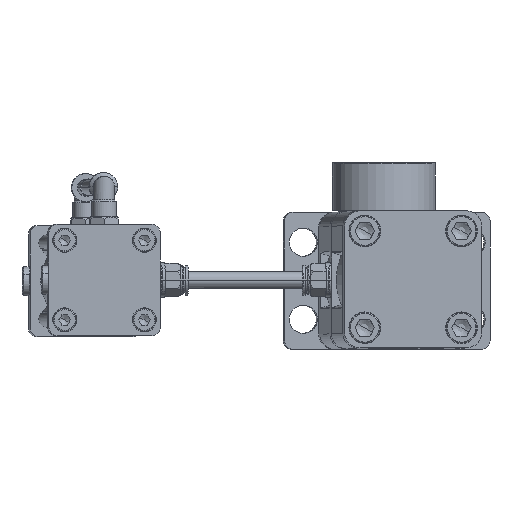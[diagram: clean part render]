
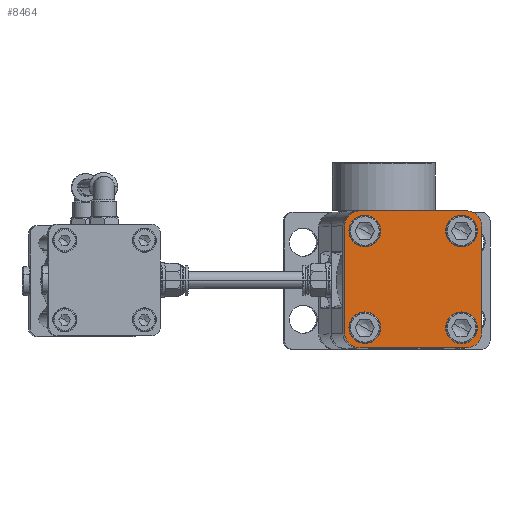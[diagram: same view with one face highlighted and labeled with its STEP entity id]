
A CAD part, top view. The second image highlights one B-rep face of the part: STEP entity #8464.
In plain terms, the highlighted planar face has unit normal (0.032, 0, 1) as drawn and (0, 0, 1) by its records, which use the part's own axes.
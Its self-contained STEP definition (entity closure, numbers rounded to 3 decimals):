
#8118=CARTESIAN_POINT('Axis2P3D Location',(-31.,31.,954.)) ;
#8122=CARTESIAN_POINT('Vertex',(-40.,31.,954.)) ;
#8124=CARTESIAN_POINT('Vertex',(-31.,40.,954.)) ;
#8164=CARTESIAN_POINT('Vertex',(31.,40.,954.)) ;
#8172=CARTESIAN_POINT('Line Origine',(0.,40.,954.)) ;
#8189=CARTESIAN_POINT('Axis2P3D Location',(31.,31.,954.)) ;
#8193=CARTESIAN_POINT('Vertex',(40.,31.,954.)) ;
#8226=CARTESIAN_POINT('Vertex',(40.,-31.,954.)) ;
#8234=CARTESIAN_POINT('Line Origine',(40.,0.,954.)) ;
#8251=CARTESIAN_POINT('Axis2P3D Location',(31.,-31.,954.)) ;
#8255=CARTESIAN_POINT('Vertex',(31.,-40.,954.)) ;
#8288=CARTESIAN_POINT('Vertex',(-40.,-31.,954.)) ;
#8291=CARTESIAN_POINT('Line Origine',(-40.,0.,954.)) ;
#8319=CARTESIAN_POINT('Vertex',(-31.,-40.,954.)) ;
#8327=CARTESIAN_POINT('Line Origine',(0.,-40.,954.)) ;
#8365=CARTESIAN_POINT('Axis2P3D Location',(-31.,-31.,954.)) ;
#8377=CARTESIAN_POINT('Axis2P3D Location',(0.,0.,954.)) ;
#8392=CARTESIAN_POINT('Axis2P3D Location',(28.25,28.25,954.)) ;
#8396=CARTESIAN_POINT('Vertex',(37.5,28.25,954.)) ;
#8398=CARTESIAN_POINT('Vertex',(19.,28.25,954.)) ;
#8401=CARTESIAN_POINT('Axis2P3D Location',(28.25,28.25,954.)) ;
#8410=CARTESIAN_POINT('Axis2P3D Location',(-28.25,28.25,954.)) ;
#8414=CARTESIAN_POINT('Vertex',(-19.,28.25,954.)) ;
#8416=CARTESIAN_POINT('Vertex',(-37.5,28.25,954.)) ;
#8419=CARTESIAN_POINT('Axis2P3D Location',(-28.25,28.25,954.)) ;
#8428=CARTESIAN_POINT('Axis2P3D Location',(-28.25,-28.25,954.)) ;
#8432=CARTESIAN_POINT('Vertex',(-19.,-28.25,954.)) ;
#8434=CARTESIAN_POINT('Vertex',(-37.5,-28.25,954.)) ;
#8437=CARTESIAN_POINT('Axis2P3D Location',(-28.25,-28.25,954.)) ;
#8446=CARTESIAN_POINT('Axis2P3D Location',(28.25,-28.25,954.)) ;
#8450=CARTESIAN_POINT('Vertex',(37.5,-28.25,954.)) ;
#8452=CARTESIAN_POINT('Vertex',(19.,-28.25,954.)) ;
#8455=CARTESIAN_POINT('Axis2P3D Location',(28.25,-28.25,954.)) ;
#8119=DIRECTION('Axis2P3D Direction',(0.,0.,1.)) ;
#8173=DIRECTION('Vector Direction',(1.,0.,0.)) ;
#8190=DIRECTION('Axis2P3D Direction',(0.,-0.,1.)) ;
#8235=DIRECTION('Vector Direction',(0.,-1.,0.)) ;
#8252=DIRECTION('Axis2P3D Direction',(0.,0.,1.)) ;
#8292=DIRECTION('Vector Direction',(0.,1.,0.)) ;
#8328=DIRECTION('Vector Direction',(-1.,0.,0.)) ;
#8366=DIRECTION('Axis2P3D Direction',(0.,0.,1.)) ;
#8378=DIRECTION('Axis2P3D Direction',(0.,0.,1.)) ;
#8379=DIRECTION('Axis2P3D XDirection',(1.,0.,0.)) ;
#8393=DIRECTION('Axis2P3D Direction',(0.,0.,1.)) ;
#8402=DIRECTION('Axis2P3D Direction',(0.,0.,1.)) ;
#8411=DIRECTION('Axis2P3D Direction',(0.,0.,1.)) ;
#8420=DIRECTION('Axis2P3D Direction',(0.,0.,1.)) ;
#8429=DIRECTION('Axis2P3D Direction',(0.,0.,1.)) ;
#8438=DIRECTION('Axis2P3D Direction',(0.,0.,1.)) ;
#8447=DIRECTION('Axis2P3D Direction',(0.,0.,1.)) ;
#8456=DIRECTION('Axis2P3D Direction',(0.,0.,1.)) ;
#8120=AXIS2_PLACEMENT_3D('Circle Axis2P3D',#8118,#8119,$) ;
#8191=AXIS2_PLACEMENT_3D('Circle Axis2P3D',#8189,#8190,$) ;
#8253=AXIS2_PLACEMENT_3D('Circle Axis2P3D',#8251,#8252,$) ;
#8367=AXIS2_PLACEMENT_3D('Circle Axis2P3D',#8365,#8366,$) ;
#8380=AXIS2_PLACEMENT_3D('Plane Axis2P3D',#8377,#8378,#8379) ;
#8394=AXIS2_PLACEMENT_3D('Circle Axis2P3D',#8392,#8393,$) ;
#8403=AXIS2_PLACEMENT_3D('Circle Axis2P3D',#8401,#8402,$) ;
#8412=AXIS2_PLACEMENT_3D('Circle Axis2P3D',#8410,#8411,$) ;
#8421=AXIS2_PLACEMENT_3D('Circle Axis2P3D',#8419,#8420,$) ;
#8430=AXIS2_PLACEMENT_3D('Circle Axis2P3D',#8428,#8429,$) ;
#8439=AXIS2_PLACEMENT_3D('Circle Axis2P3D',#8437,#8438,$) ;
#8448=AXIS2_PLACEMENT_3D('Circle Axis2P3D',#8446,#8447,$) ;
#8457=AXIS2_PLACEMENT_3D('Circle Axis2P3D',#8455,#8456,$) ;
#8383=ORIENTED_EDGE('',*,*,#8331,.T.) ;
#8384=ORIENTED_EDGE('',*,*,#8257,.F.) ;
#8385=ORIENTED_EDGE('',*,*,#8238,.T.) ;
#8386=ORIENTED_EDGE('',*,*,#8195,.F.) ;
#8387=ORIENTED_EDGE('',*,*,#8176,.T.) ;
#8388=ORIENTED_EDGE('',*,*,#8126,.F.) ;
#8389=ORIENTED_EDGE('',*,*,#8295,.T.) ;
#8390=ORIENTED_EDGE('',*,*,#8369,.F.) ;
#8407=ORIENTED_EDGE('',*,*,#8400,.F.) ;
#8408=ORIENTED_EDGE('',*,*,#8405,.F.) ;
#8425=ORIENTED_EDGE('',*,*,#8418,.F.) ;
#8426=ORIENTED_EDGE('',*,*,#8423,.F.) ;
#8443=ORIENTED_EDGE('',*,*,#8436,.F.) ;
#8444=ORIENTED_EDGE('',*,*,#8441,.F.) ;
#8461=ORIENTED_EDGE('',*,*,#8454,.F.) ;
#8462=ORIENTED_EDGE('',*,*,#8459,.F.) ;
#8409=FACE_BOUND('',#8406,.T.) ;
#8427=FACE_BOUND('',#8424,.T.) ;
#8445=FACE_BOUND('',#8442,.T.) ;
#8463=FACE_BOUND('',#8460,.T.) ;
#8174=VECTOR('Line Direction',#8173,1.) ;
#8236=VECTOR('Line Direction',#8235,1.) ;
#8293=VECTOR('Line Direction',#8292,1.) ;
#8329=VECTOR('Line Direction',#8328,1.) ;
#8464=ADVANCED_FACE('PartBody',(#8391,#8409,#8427,#8445,#8463),#8381,.T.) ;
#8121=CIRCLE('generated circle',#8120,9.) ;
#8192=CIRCLE('generated circle',#8191,9.) ;
#8254=CIRCLE('generated circle',#8253,9.) ;
#8368=CIRCLE('generated circle',#8367,9.) ;
#8395=CIRCLE('generated circle',#8394,9.25) ;
#8404=CIRCLE('generated circle',#8403,9.25) ;
#8413=CIRCLE('generated circle',#8412,9.25) ;
#8422=CIRCLE('generated circle',#8421,9.25) ;
#8431=CIRCLE('generated circle',#8430,9.25) ;
#8440=CIRCLE('generated circle',#8439,9.25) ;
#8449=CIRCLE('generated circle',#8448,9.25) ;
#8458=CIRCLE('generated circle',#8457,9.25) ;
#8126=EDGE_CURVE('',#8123,#8125,#8121,.F.) ;
#8176=EDGE_CURVE('',#8165,#8125,#8175,.F.) ;
#8195=EDGE_CURVE('',#8165,#8194,#8192,.F.) ;
#8238=EDGE_CURVE('',#8227,#8194,#8237,.F.) ;
#8257=EDGE_CURVE('',#8227,#8256,#8254,.F.) ;
#8295=EDGE_CURVE('',#8123,#8289,#8294,.F.) ;
#8331=EDGE_CURVE('',#8320,#8256,#8330,.F.) ;
#8369=EDGE_CURVE('',#8320,#8289,#8368,.F.) ;
#8400=EDGE_CURVE('',#8397,#8399,#8395,.T.) ;
#8405=EDGE_CURVE('',#8399,#8397,#8404,.T.) ;
#8418=EDGE_CURVE('',#8415,#8417,#8413,.T.) ;
#8423=EDGE_CURVE('',#8417,#8415,#8422,.T.) ;
#8436=EDGE_CURVE('',#8433,#8435,#8431,.T.) ;
#8441=EDGE_CURVE('',#8435,#8433,#8440,.T.) ;
#8454=EDGE_CURVE('',#8451,#8453,#8449,.T.) ;
#8459=EDGE_CURVE('',#8453,#8451,#8458,.T.) ;
#8382=EDGE_LOOP('',(#8383,#8384,#8385,#8386,#8387,#8388,#8389,#8390)) ;
#8406=EDGE_LOOP('',(#8407,#8408)) ;
#8424=EDGE_LOOP('',(#8425,#8426)) ;
#8442=EDGE_LOOP('',(#8443,#8444)) ;
#8460=EDGE_LOOP('',(#8461,#8462)) ;
#8391=FACE_OUTER_BOUND('',#8382,.T.) ;
#8175=LINE('Line',#8172,#8174) ;
#8237=LINE('Line',#8234,#8236) ;
#8294=LINE('Line',#8291,#8293) ;
#8330=LINE('Line',#8327,#8329) ;
#8381=PLANE('',#8380) ;
#8123=VERTEX_POINT('',#8122) ;
#8125=VERTEX_POINT('',#8124) ;
#8165=VERTEX_POINT('',#8164) ;
#8194=VERTEX_POINT('',#8193) ;
#8227=VERTEX_POINT('',#8226) ;
#8256=VERTEX_POINT('',#8255) ;
#8289=VERTEX_POINT('',#8288) ;
#8320=VERTEX_POINT('',#8319) ;
#8397=VERTEX_POINT('',#8396) ;
#8399=VERTEX_POINT('',#8398) ;
#8415=VERTEX_POINT('',#8414) ;
#8417=VERTEX_POINT('',#8416) ;
#8433=VERTEX_POINT('',#8432) ;
#8435=VERTEX_POINT('',#8434) ;
#8451=VERTEX_POINT('',#8450) ;
#8453=VERTEX_POINT('',#8452) ;
